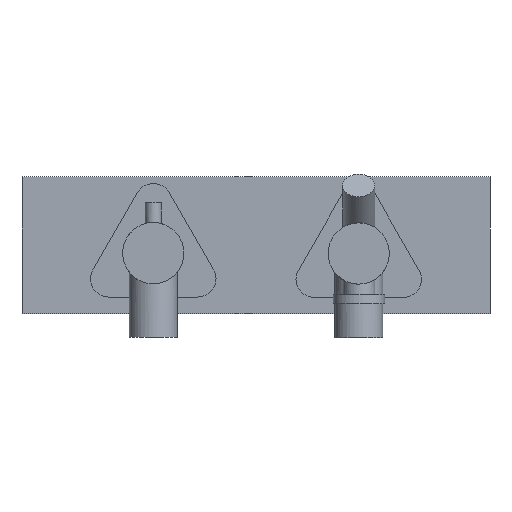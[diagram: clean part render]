
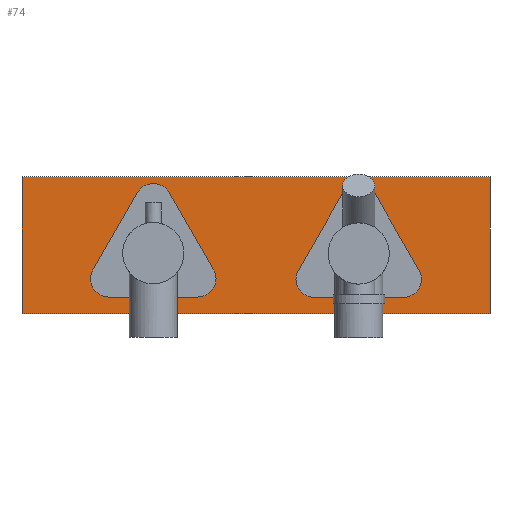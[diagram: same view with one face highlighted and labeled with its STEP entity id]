
A CAD part, front view. The second image highlights one B-rep face of the part: STEP entity #74.
In plain terms, the highlighted planar face has unit normal (0, -1, 0).
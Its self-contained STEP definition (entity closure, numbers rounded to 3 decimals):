
#74=ADVANCED_FACE('',(#120),#121,.T.);
#120=FACE_OUTER_BOUND('',#220,.T.);
#121=PLANE('',#221);
#220=EDGE_LOOP('',(#325,#326,#327,#328));
#221=AXIS2_PLACEMENT_3D('',#329,#330,#331);
#325=ORIENTED_EDGE('',*,*,#592,.T.);
#326=ORIENTED_EDGE('',*,*,#593,.T.);
#327=ORIENTED_EDGE('',*,*,#590,.F.);
#328=ORIENTED_EDGE('',*,*,#594,.T.);
#329=CARTESIAN_POINT('',(102.5,0.0,30.0));
#330=DIRECTION('',(0.0,-1.0,0.0));
#331=DIRECTION('',(0.0,0.0,-1.0));
#590=EDGE_CURVE('',#665,#667,#668,.T.);
#592=EDGE_CURVE('',#670,#671,#672,.T.);
#593=EDGE_CURVE('',#671,#667,#673,.T.);
#594=EDGE_CURVE('',#665,#670,#674,.T.);
#665=VERTEX_POINT('',#790);
#667=VERTEX_POINT('',#793);
#668=LINE('',#794,#795);
#670=VERTEX_POINT('',#798);
#671=VERTEX_POINT('',#799);
#672=LINE('',#800,#801);
#673=LINE('',#802,#803);
#674=LINE('',#804,#805);
#790=CARTESIAN_POINT('',(102.5,0.0,-30.0));
#793=CARTESIAN_POINT('',(-102.5,0.0,-30.0));
#794=CARTESIAN_POINT('',(102.5,0.0,-30.0));
#795=VECTOR('',#1345,1.0);
#798=CARTESIAN_POINT('',(102.5,0.0,30.0));
#799=CARTESIAN_POINT('',(-102.5,0.0,30.0));
#800=CARTESIAN_POINT('',(102.5,0.0,30.0));
#801=VECTOR('',#1347,1.0);
#802=CARTESIAN_POINT('',(-102.5,0.0,30.0));
#803=VECTOR('',#1348,1.0);
#804=CARTESIAN_POINT('',(102.5,0.0,-30.0));
#805=VECTOR('',#1349,1.0);
#1345=DIRECTION('',(-1.0,0.0,0.0));
#1347=DIRECTION('',(-1.0,0.0,0.0));
#1348=DIRECTION('',(0.0,0.0,-1.0));
#1349=DIRECTION('',(0.0,0.0,1.0));
